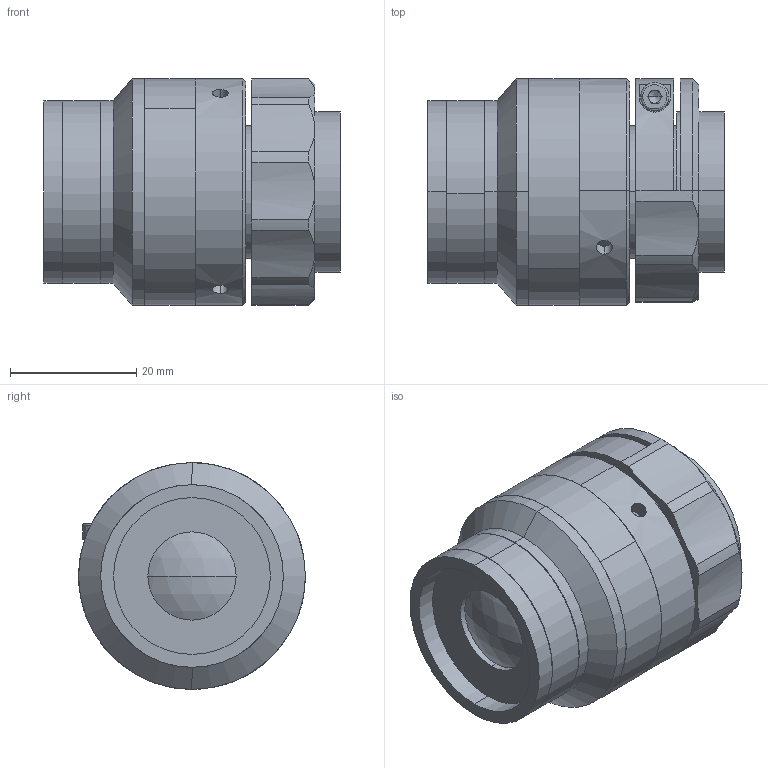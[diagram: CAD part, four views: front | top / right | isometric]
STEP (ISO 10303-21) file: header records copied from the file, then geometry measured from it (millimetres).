
FILE_DESCRIPTION (( 'STEP AP203' ), '1' );
FILE_NAME ('XF-MH01X445.STEP', '2020-08-24T07:07:27', ( 'canrill-02' ), ( '' ), 'SwSTEP 2.0', 'SolidWorks 2014', '' );
FILE_SCHEMA (( 'CONFIG_CONTROL_DESIGN' ));
Length unit declared in the file: millimetre
Products named in the file (1): XF-MH01X445
Bounding box: 47.02 x 36 x 36 mm (x, y, z)
Surface area: 11156.2 mm2 (no closed solid volume)
Topology: 0 solids, 11 shells, 100 faces, 264 edges, 178 vertices
Faces by surface type: cylinder 47, plane 34, cone 15, sphere 2, torus 2
Entity records: 3474 total; most frequent: CARTESIAN_POINT 862, DIRECTION 581, ORIENTED_EDGE 450, EDGE_CURVE 262, AXIS2_PLACEMENT_3D 241, VERTEX_POINT 178, CIRCLE 140, EDGE_LOOP 124
